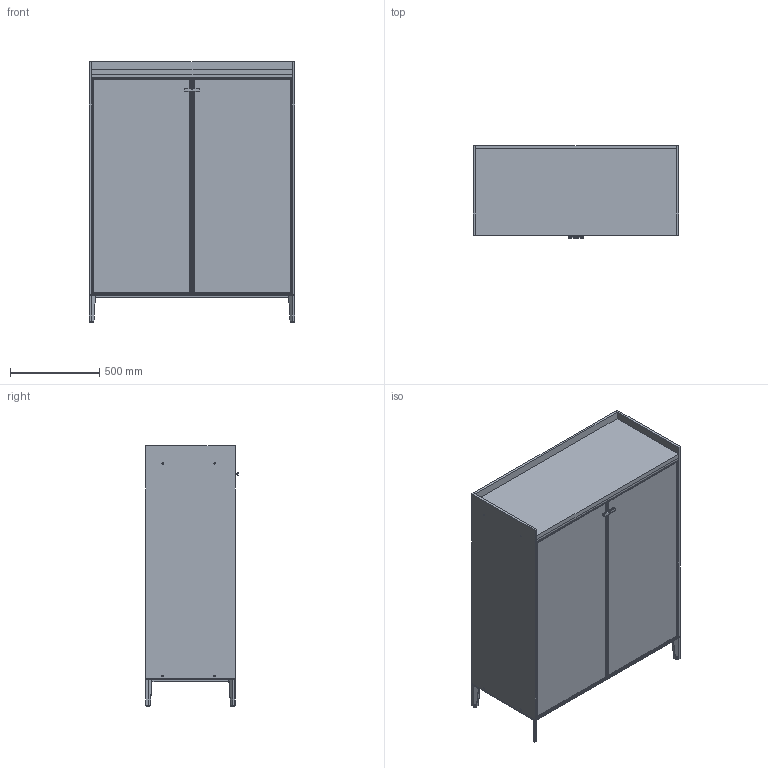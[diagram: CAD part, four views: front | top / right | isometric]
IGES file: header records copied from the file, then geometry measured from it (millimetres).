
Global section: file name: Z:\3D_LQ\2024-2025\madia-Klass\x-web\SEG260\3D_Segesta-115.igs; native system: Rhinoceros ( Aug 11 2021 ); preprocessor: Trout Lake IGES 012 Aug 11 2021; date: 250404.153229; units: millimetre
Bounding box: 1150 x 517.66 x 1455 mm (x, y, z)
Surface area: 18860174 mm2 (no closed solid volume)
Topology: 0 solids, 0 shells, 1156 faces, 6599 edges, 6493 vertices
Faces by surface type: bspline 1156
